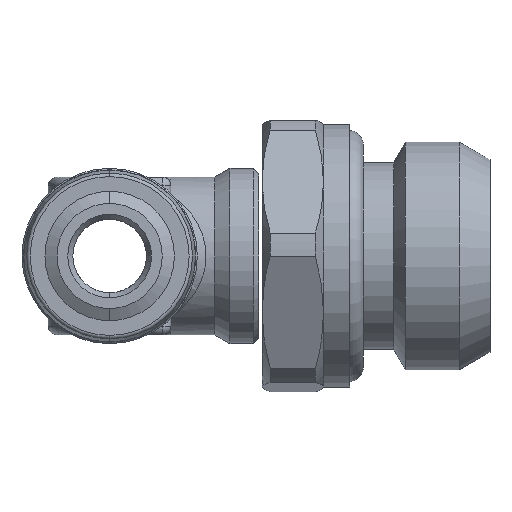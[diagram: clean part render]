
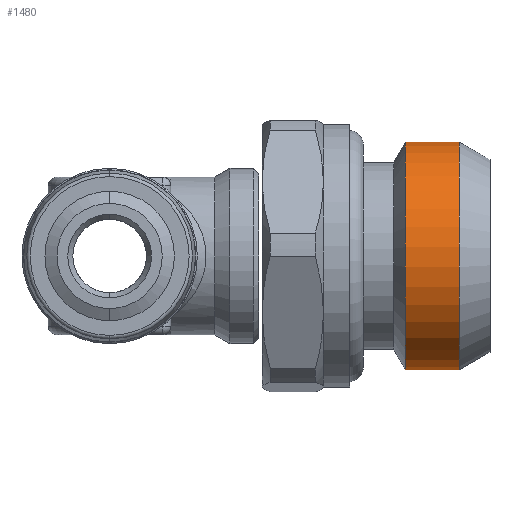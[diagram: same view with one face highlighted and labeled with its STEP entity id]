
A CAD part, left-side view. The second image highlights one B-rep face of the part: STEP entity #1480.
In plain terms, the highlighted cylindrical face has radius 6.52 mm (diameter 13.04 mm), a partial arc.
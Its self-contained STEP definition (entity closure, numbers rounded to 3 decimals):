
#13 = CARTESIAN_POINT ( 'NONE',  ( 0., -10.433, 0. ) ) ;
#244 = CIRCLE ( 'NONE', #3510, 6.52 ) ;
#309 = CARTESIAN_POINT ( 'NONE',  ( -0.507, -7.375, -6.5 ) ) ;
#440 = CARTESIAN_POINT ( 'NONE',  ( -0.507, -10.433, -6.5 ) ) ;
#598 = DIRECTION ( 'NONE',  ( 0., -1., 0. ) ) ;
#702 = DIRECTION ( 'NONE',  ( -0.078, 0., -0.997 ) ) ;
#726 = EDGE_CURVE ( 'NONE', #6936, #4318, #6262, .T. ) ;
#928 = VECTOR ( 'NONE', #7309, 1000. ) ;
#1480 = ADVANCED_FACE ( 'NONE', ( #6898 ), #7845, .T. ) ;
#1488 = VERTEX_POINT ( 'NONE', #2647 ) ;
#2467 = CARTESIAN_POINT ( 'NONE',  ( 0., -12.2, 0. ) ) ;
#2492 = DIRECTION ( 'NONE',  ( 0., -1., 0. ) ) ;
#2599 = DIRECTION ( 'NONE',  ( -0.078, 0., -0.997 ) ) ;
#2647 = CARTESIAN_POINT ( 'NONE',  ( 0.507, -10.433, 6.5 ) ) ;
#2961 = ORIENTED_EDGE ( 'NONE', *, *, #726, .T. ) ;
#3163 = ORIENTED_EDGE ( 'NONE', *, *, #4489, .T. ) ;
#3384 = ORIENTED_EDGE ( 'NONE', *, *, #7017, .F. ) ;
#3510 = AXIS2_PLACEMENT_3D ( 'NONE', #4638, #598, #5335 ) ;
#3870 = EDGE_LOOP ( 'NONE', ( #3384, #3163, #2961, #8012 ) ) ;
#3887 = VERTEX_POINT ( 'NONE', #7391 ) ;
#4318 = VERTEX_POINT ( 'NONE', #440 ) ;
#4385 = VECTOR ( 'NONE', #4936, 1000. ) ;
#4489 = EDGE_CURVE ( 'NONE', #3887, #6936, #244, .T. ) ;
#4531 = CARTESIAN_POINT ( 'NONE',  ( 0.507, -12.2, 6.5 ) ) ;
#4638 = CARTESIAN_POINT ( 'NONE',  ( 0., -7.375, 0. ) ) ;
#4749 = DIRECTION ( 'NONE',  ( 0., -1., 0. ) ) ;
#4832 = AXIS2_PLACEMENT_3D ( 'NONE', #13, #4749, #702 ) ;
#4936 = DIRECTION ( 'NONE',  ( 0., -1., 0. ) ) ;
#5075 = CARTESIAN_POINT ( 'NONE',  ( -0.507, -12.2, -6.5 ) ) ;
#5335 = DIRECTION ( 'NONE',  ( -0.078, 0., -0.997 ) ) ;
#5709 = AXIS2_PLACEMENT_3D ( 'NONE', #2467, #2492, #2599 ) ;
#6262 = LINE ( 'NONE', #5075, #4385 ) ;
#6898 = FACE_OUTER_BOUND ( 'NONE', #3870, .T. ) ;
#6910 = CIRCLE ( 'NONE', #4832, 6.52 ) ;
#6936 = VERTEX_POINT ( 'NONE', #309 ) ;
#7017 = EDGE_CURVE ( 'NONE', #3887, #1488, #8176, .T. ) ;
#7309 = DIRECTION ( 'NONE',  ( 0., -1., 0. ) ) ;
#7391 = CARTESIAN_POINT ( 'NONE',  ( 0.507, -7.375, 6.5 ) ) ;
#7845 = CYLINDRICAL_SURFACE ( 'NONE', #5709, 6.52 ) ;
#8012 = ORIENTED_EDGE ( 'NONE', *, *, #8476, .F. ) ;
#8176 = LINE ( 'NONE', #4531, #928 ) ;
#8476 = EDGE_CURVE ( 'NONE', #1488, #4318, #6910, .T. ) ;
